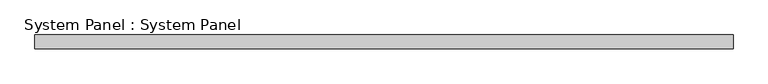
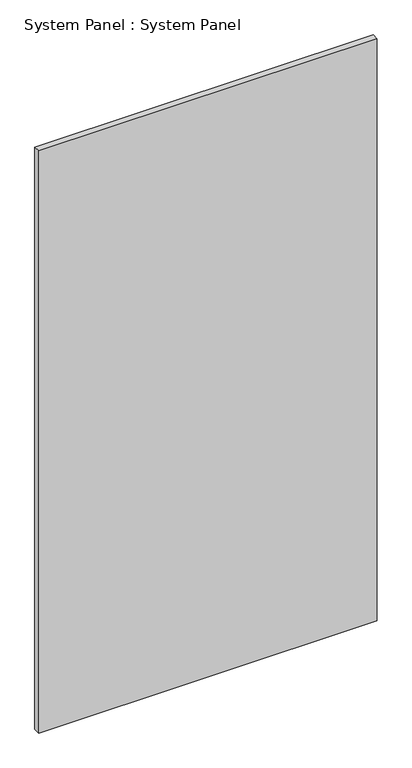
"""IFC4 building model written with IfcOpenShell, lengths in millimetres: plate geometry, System Panel : System Panel."""

import ifcopenshell
import ifcopenshell.guid

model = None  # the IFC model being written
_history = None  # IfcOwnerHistory: only IFC2X3 demands one
_inside = {}  # id of a spatial element -> (the spatial element, [elements in it])
_under = {}  # id of a project, library or spatial element -> (it, [spatial elements below it])
_declared = {}  # id of a project -> (the project, [libraries it declares])
_typed = {}  # id of a type object -> (the type object, [elements of that type])
_made_of = {}  # id of a material, layer set ... -> (it, [elements and type objects made of it])


def new_model(schema):
    """Start an empty IFC model of exactly this schema.

    Asked for "IFC4X3", IfcOpenShell would pick the latest addendum, in which some entities
    have other attributes; the version numbers below select the first issue.
    IFC2X3 requires an IfcOwnerHistory on every rooted entity: one is made here for all.
    """
    global model, _history
    if schema == "IFC4X3":
        model = ifcopenshell.file(schema_version=(4, 3, 0, 0))
    else:
        model = ifcopenshell.file(schema=schema)
    _inside.clear()
    _under.clear()
    _declared.clear()
    _typed.clear()
    _made_of.clear()
    _history = None
    if model.schema == "IFC2X3":
        org = make("IfcOrganization", Name="unknown")
        user = make(
            "IfcPersonAndOrganization",
            ThePerson=make("IfcPerson", FamilyName="unknown"),
            TheOrganization=org,
        )
        app = make(
            "IfcApplication",
            ApplicationDeveloper=org,
            Version="unknown",
            ApplicationFullName="unknown",
            ApplicationIdentifier="unknown",
        )
        _history = make(
            "IfcOwnerHistory",
            OwningUser=user,
            OwningApplication=app,
            ChangeAction="ADDED",
            CreationDate=0,
        )
    return model


def make(cls, **values):
    """One entity of the class cls with the attributes given. An attribute that is None is left unset."""
    return model.create_entity(
        cls, **{name: value for name, value in values.items() if value is not None}
    )


def rooted(cls, **values):
    """An entity with a GlobalId (a new one), such as an element, a storey or a relation."""
    return make(cls, GlobalId=ifcopenshell.guid.new(), OwnerHistory=_history, **values)


def si_unit(unit_type, name, prefix=None):
    """IfcSIUnit, for example si_unit("LENGTHUNIT", "METRE", prefix="MILLI")."""
    return make("IfcSIUnit", UnitType=unit_type, Prefix=prefix, Name=name)


def assignment(units):
    """IfcUnitAssignment: the units of a project."""
    return None if units is None else make("IfcUnitAssignment", Units=units)


def point(xyz):
    """IfcCartesianPoint."""
    return None if xyz is None else make("IfcCartesianPoint", Coordinates=xyz)


def direction(xyz):
    """IfcDirection."""
    return None if xyz is None else make("IfcDirection", DirectionRatios=xyz)


def frame(location, z_axis=None, x_axis=None):
    """IfcAxis2Placement3D, a coordinate frame: its origin and axes. An axis left out is left unset."""
    return make(
        "IfcAxis2Placement3D",
        Location=point(location),
        Axis=direction(z_axis),
        RefDirection=direction(x_axis),
    )


def origin():
    """The frame at (0, 0, 0) with its axes left unset."""
    return frame((0.0, 0.0, 0.0))


def origin_with_axes():
    """The frame at (0, 0, 0) with the z axis (0, 0, 1) and the x axis (1, 0, 0) written out."""
    return frame((0.0, 0.0, 0.0), z_axis=(0.0, 0.0, 1.0), x_axis=(1.0, 0.0, 0.0))


def place(relative_to, where):
    """IfcLocalPlacement: puts the frame where relative to a parent placement (None: the world)."""
    return make(
        "IfcLocalPlacement", PlacementRelTo=relative_to, RelativePlacement=where
    )


def context(
    kind, dimensions, precision=None, world=None, true_north=None, identifier=None
):
    """IfcGeometricRepresentationContext, for example the 3D "Model" context."""
    return make(
        "IfcGeometricRepresentationContext",
        ContextIdentifier=identifier,
        ContextType=kind,
        CoordinateSpaceDimension=dimensions,
        Precision=precision,
        WorldCoordinateSystem=world,
        TrueNorth=true_north,
    )


def project(units=None, contexts=None):
    """IfcProject with its units and contexts."""
    return rooted(
        "IfcProject",
        Name="project",
        RepresentationContexts=contexts,
        UnitsInContext=assignment(units),
    )


def spatial(cls, under=None, at=None, **own):
    """A site, building, storey or space (cls), placed at a placement, below another one or the project."""
    s = rooted(cls, ObjectPlacement=at, **own)
    if under is not None:
        _under.setdefault(under.id(), (under, []))[1].append(s)
    return s


def polyline(points):
    """IfcPolyline through the points."""
    return make("IfcPolyline", Points=[point(p) for p in points])


def outline(outer, holes=None, kind="AREA"):
    """IfcArbitraryClosedProfileDef: a profile drawn as a closed curve; with holes, ...WithVoids."""
    if holes is None:
        return make("IfcArbitraryClosedProfileDef", ProfileType=kind, OuterCurve=outer)
    return make(
        "IfcArbitraryProfileDefWithVoids",
        ProfileType=kind,
        OuterCurve=outer,
        InnerCurves=holes,
    )


def extrude(swept, where, along, depth):
    """IfcExtrudedAreaSolid: the profile swept, set in the frame where, extruded along a direction by depth."""
    return make(
        "IfcExtrudedAreaSolid",
        SweptArea=swept,
        Position=where,
        ExtrudedDirection=direction(along),
        Depth=depth,
    )


def shape(context_of_items, identifier, shape_type, items):
    """IfcShapeRepresentation: the items that make up one representation, for example the "Body"."""
    return make(
        "IfcShapeRepresentation",
        ContextOfItems=context_of_items,
        RepresentationIdentifier=identifier,
        RepresentationType=shape_type,
        Items=items,
    )


def source(mapping_origin, context_of_items, identifier, shape_type, items):
    """IfcRepresentationMap: a shape defined once, which mapped items show again and again."""
    return make(
        "IfcRepresentationMap",
        MappingOrigin=mapping_origin,
        MappedRepresentation=shape(context_of_items, identifier, shape_type, items),
    )


def transform(
    local_origin,
    x_axis=None,
    y_axis=None,
    z_axis=None,
    scale=None,
    scale2=None,
    scale3=None,
    uniform=True,
):
    """IfcCartesianTransformationOperator3D, or its non-uniform kind. x_axis, y_axis, z_axis: its Axis1, 2, 3."""
    if uniform:
        return make(
            "IfcCartesianTransformationOperator3D",
            Axis1=direction(x_axis),
            Axis2=direction(y_axis),
            LocalOrigin=point(local_origin),
            Scale=scale,
            Axis3=direction(z_axis),
        )
    return make(
        "IfcCartesianTransformationOperator3DnonUniform",
        Axis1=direction(x_axis),
        Axis2=direction(y_axis),
        LocalOrigin=point(local_origin),
        Scale=scale,
        Axis3=direction(z_axis),
        Scale2=scale2,
        Scale3=scale3,
    )


def mapped(mapping_source, mapping_target):
    """IfcMappedItem: shows the shape of a source again, moved by a transform."""
    return make(
        "IfcMappedItem", MappingSource=mapping_source, MappingTarget=mapping_target
    )


def made_of(thing, what):
    """Note that an element or type object is made of a material, layer set ...; save() writes the relation."""
    if what is not None:
        _made_of.setdefault(what.id(), (what, []))[1].append(thing)
    return thing


def element(
    cls,
    number,
    at=None,
    inside=None,
    cuts=None,
    type_object=None,
    material=None,
    context=None,
    identifier="Body",
    shape_type=None,
    held_by="IfcProductDefinitionShape",
    body=None,
    shapes=None,
    **own,
):
    """One element of the class cls, such as IfcWall. Its Tag is "e" and its number.

    at: its placement. inside: the storey or other place that contains it. cuts: it is an
    opening in that element (IfcRelVoidsElement). A single representation is given by context,
    identifier, shape_type and body (its items); several are given by shapes. held_by: the class
    of the entity that holds the representations. save() writes the other relations.
    """
    e = rooted(cls, Tag="e%d" % number, ObjectPlacement=at, **own)
    if body is not None:
        shapes = [shape(context, identifier, shape_type, body)]
    if shapes is not None:
        e.Representation = make(held_by, Representations=shapes)
    if inside is not None:
        _inside.setdefault(inside.id(), (inside, []))[1].append(e)
    if cuts is not None:
        rooted(
            "IfcRelVoidsElement", RelatingBuildingElement=cuts, RelatedOpeningElement=e
        )
    if type_object is not None:
        _typed.setdefault(type_object.id(), (type_object, []))[1].append(e)
    return made_of(e, material)


def aggregate(whole, parts):
    """IfcRelAggregates: a whole, such as a stair, and the parts it consists of."""
    return rooted("IfcRelAggregates", RelatingObject=whole, RelatedObjects=parts)


def save(model, path):
    """Write the relations noted so far, then the file.

    IfcRelAggregates (storeys below a building ...), IfcRelContainedInSpatialStructure (elements
    in a storey), IfcRelDefinesByType, IfcRelAssociatesMaterial and IfcRelDeclares: one each for
    every whole, place, type object, material and project.
    """
    for whole, parts in _under.values():
        aggregate(whole, parts)
    for where, things in _inside.values():
        rooted(
            "IfcRelContainedInSpatialStructure",
            RelatedElements=things,
            RelatingStructure=where,
        )
    for kind, things in _typed.values():
        rooted("IfcRelDefinesByType", RelatedObjects=things, RelatingType=kind)
    for what, things in _made_of.values():
        rooted("IfcRelAssociatesMaterial", RelatedObjects=things, RelatingMaterial=what)
    for by, libraries in _declared.values():
        rooted("IfcRelDeclares", RelatingContext=by, RelatedDefinitions=libraries)
    model.write(path)


def system_panel_system_panel_958c1d96(model_context):
    return source(origin(), model_context, "Body", "SweptSolid", [
        extrude(outline(polyline([(644.525, 19.05), (-644.525, 19.05), (-644.525, 44.45), (644.525, 44.45), (644.525, 19.05)])), origin_with_axes(), (0.0, 0.0, 1.0), 2343.15),
    ])


if __name__ == "__main__":
    model = new_model("IFC4")
    model_context = context("Model", 3, world=origin())
    ifc_project = project(units=[si_unit("LENGTHUNIT", "METRE", prefix="MILLI")], contexts=[model_context])
    site = spatial("IfcSite", under=ifc_project)
    building = spatial("IfcBuilding", under=site)
    placement = place(None, origin())
    system_panel_system_panel_shape = system_panel_system_panel_958c1d96(model_context)
    element("IfcPlate", 1, ObjectType="System Panel : System Panel", at=placement, inside=building, context=model_context, shape_type="MappedRepresentation", body=[
        mapped(system_panel_system_panel_shape, transform((0.0, 0.0, 0.0), x_axis=(1.0, 0.0, 0.0), y_axis=(0.0, 1.0, 0.0), z_axis=(0.0, 0.0, 1.0))),
    ])
    save(model, "model.ifc")
